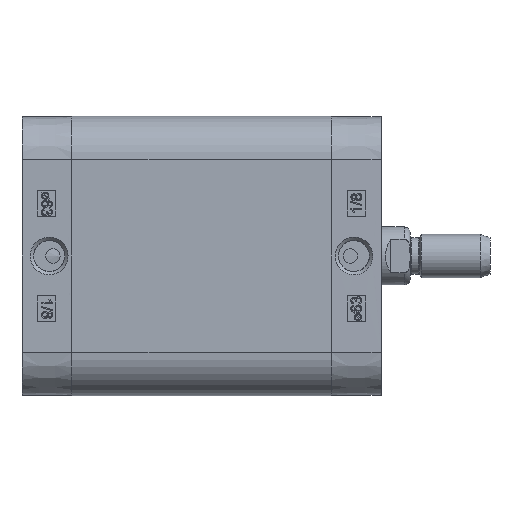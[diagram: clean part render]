
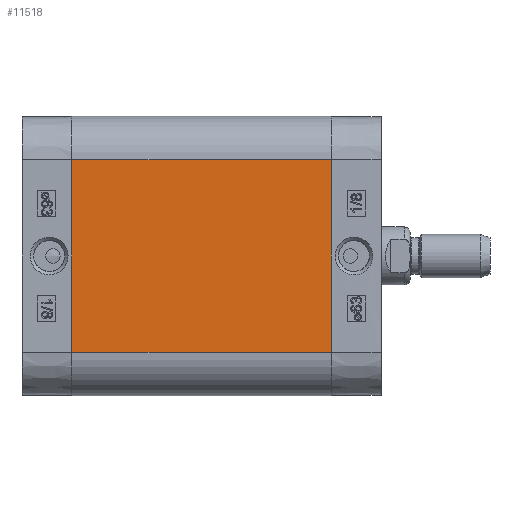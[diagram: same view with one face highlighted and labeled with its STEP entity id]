
A CAD part, left-side view. The second image highlights one B-rep face of the part: STEP entity #11518.
In plain terms, the highlighted planar face has unit normal (-1, 0, 0).
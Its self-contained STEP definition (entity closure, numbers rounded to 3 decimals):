
#5848=CARTESIAN_POINT('',(-38.5,-71.5,26.5));
#5849=VERTEX_POINT('',#5848);
#5856=CARTESIAN_POINT('',(-38.5,-71.5,-26.5));
#5857=VERTEX_POINT('',#5856);
#5858=CARTESIAN_POINT('',(-38.5,-71.5,-26.5));
#5859=DIRECTION('',(0.0,0.0,1.0));
#5860=VECTOR('',#5859,53.0);
#5861=LINE('',#5858,#5860);
#5862=EDGE_CURVE('',#5857,#5849,#5861,.T.);
#11476=CARTESIAN_POINT('',(-38.5,0.0,-26.5));
#11477=VERTEX_POINT('',#11476);
#11478=CARTESIAN_POINT('',(-38.5,0.0,-26.5));
#11479=DIRECTION('',(0.0,-1.0,0.0));
#11480=VECTOR('',#11479,71.5);
#11481=LINE('',#11478,#11480);
#11482=EDGE_CURVE('',#11477,#5857,#11481,.T.);
#11495=CARTESIAN_POINT('',(-38.5,0.0,-26.5));
#11496=DIRECTION('',(-1.0,0.0,0.0));
#11497=DIRECTION('',(0.0,0.0,1.0));
#11498=AXIS2_PLACEMENT_3D('',#11495,#11496,#11497);
#11499=PLANE('',#11498);
#11500=ORIENTED_EDGE('',*,*,#5862,.T.);
#11501=CARTESIAN_POINT('',(-38.5,0.0,26.5));
#11502=VERTEX_POINT('',#11501);
#11503=CARTESIAN_POINT('',(-38.5,0.0,26.5));
#11504=DIRECTION('',(0.0,-1.0,0.0));
#11505=VECTOR('',#11504,71.5);
#11506=LINE('',#11503,#11505);
#11507=EDGE_CURVE('',#11502,#5849,#11506,.T.);
#11508=ORIENTED_EDGE('',*,*,#11507,.F.);
#11509=CARTESIAN_POINT('',(-38.5,0.0,-26.5));
#11510=DIRECTION('',(0.0,0.0,1.0));
#11511=VECTOR('',#11510,53.0);
#11512=LINE('',#11509,#11511);
#11513=EDGE_CURVE('',#11477,#11502,#11512,.T.);
#11514=ORIENTED_EDGE('',*,*,#11513,.F.);
#11515=ORIENTED_EDGE('',*,*,#11482,.T.);
#11516=EDGE_LOOP('',(#11500,#11508,#11514,#11515));
#11517=FACE_OUTER_BOUND('',#11516,.T.);
#11518=ADVANCED_FACE('',(#11517),#11499,.T.);
